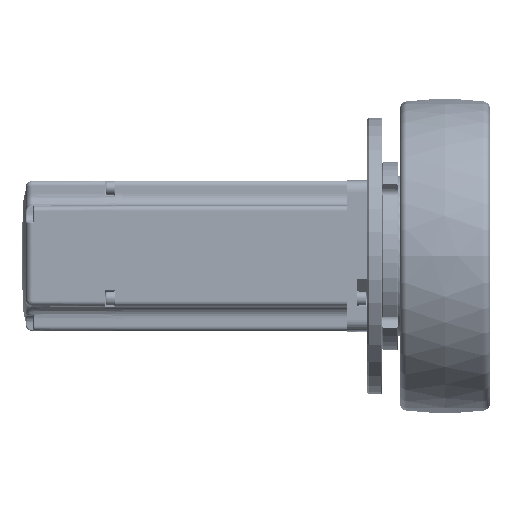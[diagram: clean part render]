
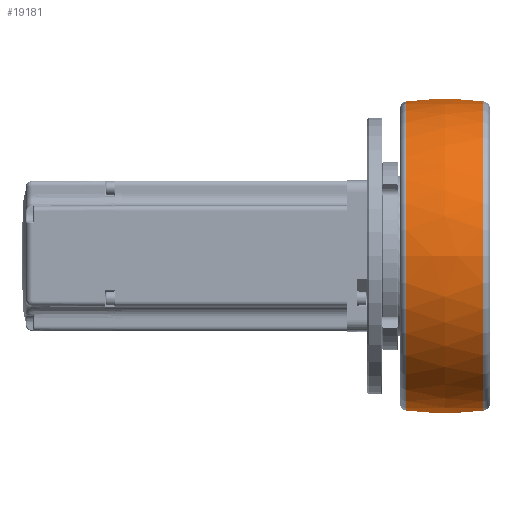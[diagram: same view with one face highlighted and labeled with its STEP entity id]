
A CAD part, front view. The second image highlights one B-rep face of the part: STEP entity #19181.
In plain terms, the highlighted free-form (B-spline) face has degree [3, 3] with [7, 4] control points.
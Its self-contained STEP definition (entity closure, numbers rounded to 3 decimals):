
#18935=CARTESIAN_POINT('',(2.625,0.,0.));
#18936=DIRECTION('',(-1.,0.,0.));
#18937=DIRECTION('',(0.,0.,1.));
#18938=AXIS2_PLACEMENT_3D('',#18935,#18936,#18937);
#18940=CARTESIAN_POINT('',(2.625,0.,0.));
#18941=DIRECTION('',(-1.,0.,0.));
#18942=DIRECTION('',(0.,0.004,1.));
#18943=AXIS2_PLACEMENT_3D('',#18940,#18941,#18942);
#18945=CARTESIAN_POINT('',(17.95,0.,
60.));
#18946=DIRECTION('',(0.,-1.,0.));
#18947=DIRECTION('',(-0.125,0.,-0.992));
#18948=AXIS2_PLACEMENT_3D('',#18945,#18946,#18947);
#18950=CARTESIAN_POINT('',(33.275,0.,0.));
#18951=DIRECTION('',(1.,0.,0.));
#18952=DIRECTION('',(0.,0.,-1.));
#18953=AXIS2_PLACEMENT_3D('',#18950,#18951,#18952);
#18955=CARTESIAN_POINT('',(33.275,0.,0.));
#18956=DIRECTION('',(1.,0.,0.));
#18957=DIRECTION('',(0.,0.006,1.));
#18958=AXIS2_PLACEMENT_3D('',#18955,#18956,#18957);
#18960=CARTESIAN_POINT('',(17.95,0.,
-60.));
#18961=DIRECTION('',(0.,-1.,0.));
#18962=DIRECTION('',(0.125,0.,0.992));
#18963=AXIS2_PLACEMENT_3D('',#18960,#18961,#18962);
#19045=CARTESIAN_POINT('',(33.275,0.,
-61.538));
#19046=VERTEX_POINT('',#19045);
#19049=CARTESIAN_POINT('',(33.275,-0.001,
61.538));
#19050=VERTEX_POINT('',#19049);
#19051=CARTESIAN_POINT('',(33.275,0.374,
61.536));
#19052=VERTEX_POINT('',#19051);
#19053=CARTESIAN_POINT('',(2.625,0.001,
61.538));
#19054=CARTESIAN_POINT('',(2.625,0.253,
61.537));
#19055=VERTEX_POINT('',#19053);
#19056=VERTEX_POINT('',#19054);
#19057=CARTESIAN_POINT('',(2.625,0.,
-61.538));
#19058=VERTEX_POINT('',#19057);
#19140=CARTESIAN_POINT('',(33.885,-3.859,
61.338));
#19141=CARTESIAN_POINT('',(23.292,-3.946,
62.725));
#19142=CARTESIAN_POINT('',(12.608,-3.946,
62.725));
#19143=CARTESIAN_POINT('',(2.015,-3.859,
61.338));
#19144=CARTESIAN_POINT('',(33.885,33.888,63.713));
#19145=CARTESIAN_POINT('',(23.292,34.654,65.154));
#19146=CARTESIAN_POINT('',(12.608,34.654,65.154));
#19147=CARTESIAN_POINT('',(2.015,33.888,63.713));
#19148=CARTESIAN_POINT('',(33.885,61.459,37.822));
#19149=CARTESIAN_POINT('',(23.292,62.849,38.677));
#19150=CARTESIAN_POINT('',(12.608,62.849,38.677));
#19151=CARTESIAN_POINT('',(2.015,61.459,37.822));
#19152=CARTESIAN_POINT('',(33.885,61.459,
0.));
#19153=CARTESIAN_POINT('',(23.292,62.849,
0.));
#19154=CARTESIAN_POINT('',(12.608,62.849,
0.));
#19155=CARTESIAN_POINT('',(2.015,61.459,
0.));
#19156=CARTESIAN_POINT('',(33.885,61.459,
-37.822));
#19157=CARTESIAN_POINT('',(23.292,62.849,
-38.677));
#19158=CARTESIAN_POINT('',(12.608,62.849,
-38.677));
#19159=CARTESIAN_POINT('',(2.015,61.459,
-37.822));
#19160=CARTESIAN_POINT('',(33.885,33.888,
-63.713));
#19161=CARTESIAN_POINT('',(23.292,34.655,
-65.153));
#19162=CARTESIAN_POINT('',(12.608,34.655,
-65.153));
#19163=CARTESIAN_POINT('',(2.015,33.888,
-63.713));
#19164=CARTESIAN_POINT('',(33.885,-3.859,
-61.338));
#19165=CARTESIAN_POINT('',(23.292,-3.946,
-62.725));
#19166=CARTESIAN_POINT('',(12.608,-3.946,
-62.725));
#19167=CARTESIAN_POINT('',(2.015,-3.859,
-61.338));
#19168=(BOUNDED_SURFACE()B_SPLINE_SURFACE(3,3,((#19140,#19141,#19142,#19143),(
#19144,#19145,#19146,#19147),(#19148,#19149,#19150,#19151),(#19152,#19153,
#19154,#19155),(#19156,#19157,#19158,#19159),(#19160,#19161,#19162,#19163),(
#19164,#19165,#19166,#19167)),.UNSPECIFIED.,.F.,.F.,.F.)B_SPLINE_SURFACE_WITH_KNOTS((4,3,4),(4,4),(0.,1.,2.),(0.,1.),.UNSPECIFIED.)GEOMETRIC_REPRESENTATION_ITEM()RATIONAL_B_SPLINE_SURFACE(((1.192,1.186,
1.186,1.192),(0.942,0.936,
0.936,0.942),(0.942,0.936,
0.936,0.942),(1.192,1.186,
1.186,1.192),(0.942,0.936,
0.936,0.942),(0.942,0.936,
0.936,0.942),(1.192,1.186,
1.186,1.192)))REPRESENTATION_ITEM('')SURFACE());
#19170=ORIENTED_EDGE('',*,*,#19169,.T.);
#19172=ORIENTED_EDGE('',*,*,#19171,.T.);
#19174=ORIENTED_EDGE('',*,*,#19173,.T.);
#19175=ORIENTED_EDGE('',*,*,#19134,.T.);
#19176=ORIENTED_EDGE('',*,*,#19132,.T.);
#19178=ORIENTED_EDGE('',*,*,#19177,.T.);
#19179=EDGE_LOOP('',(#19170,#19172,#19174,#19175,#19176,#19178));
#19180=FACE_OUTER_BOUND('',#19179,.F.);
#19181=ADVANCED_FACE('',(#19180),#19168,.T.);
#18939=CIRCLE('',#18938,61.538);
#18944=CIRCLE('',#18943,61.538);
#18949=CIRCLE('',#18948,122.5);
#18954=CIRCLE('',#18953,61.538);
#18959=CIRCLE('',#18958,61.538);
#18964=CIRCLE('',#18963,122.5);
#19132=EDGE_CURVE('',#19052,#19050,#18959,.T.);
#19134=EDGE_CURVE('',#19046,#19052,#18954,.T.);
#19169=EDGE_CURVE('',#19055,#19056,#18939,.T.);
#19171=EDGE_CURVE('',#19056,#19058,#18944,.T.);
#19173=EDGE_CURVE('',#19058,#19046,#18949,.T.);
#19177=EDGE_CURVE('',#19050,#19055,#18964,.T.);
